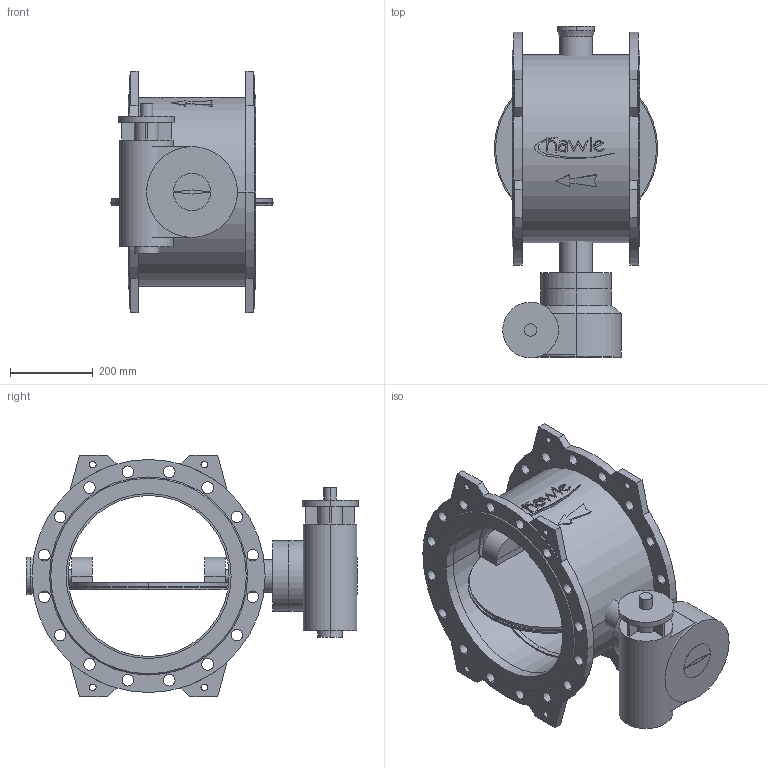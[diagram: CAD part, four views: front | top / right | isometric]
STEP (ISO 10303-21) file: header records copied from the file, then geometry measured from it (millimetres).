
FILE_DESCRIPTION(('STEP AP214'),'1');
FILE_NAME('S:/EK/USER/CAT6/3DHomepage_27-04-2012/neu_08-01-2013/9881K/9881K_PN10_DN400.STP','2013-02-26T15:36:04',(' '),(' '),'Spatial InterOp 3D',' ',' ');
FILE_SCHEMA(('automotive_design'));
Length unit declared in the file: millimetre
Products named in the file (48): 3D-Objekt
Bounding box: 396 x 804.5 x 586 mm (x, y, z)
Volume: 31934553.9 mm3; surface area: 2761893.1 mm2
Topology: 48 solids, 48 shells, 387 faces, 864 edges, 576 vertices
Faces by surface type: plane 198, cylinder 181, cone 8
Entity records: 15262 total; most frequent: DIRECTION 2112, CARTESIAN_POINT 1875, ORIENTED_EDGE 1728, EDGE_CURVE 864, AXIS2_PLACEMENT_3D 813, VERTEX_POINT 576, LINE 486, VECTOR 486
